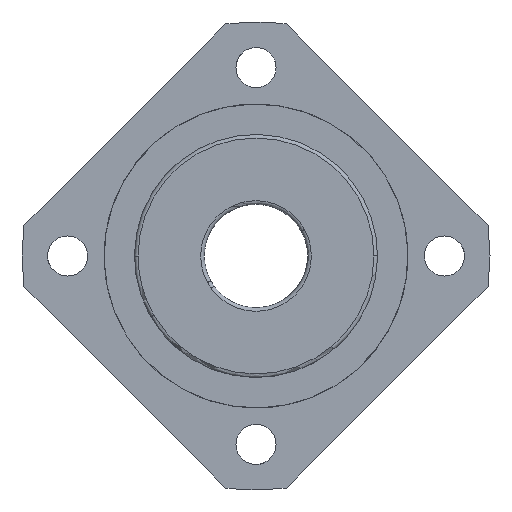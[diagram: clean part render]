
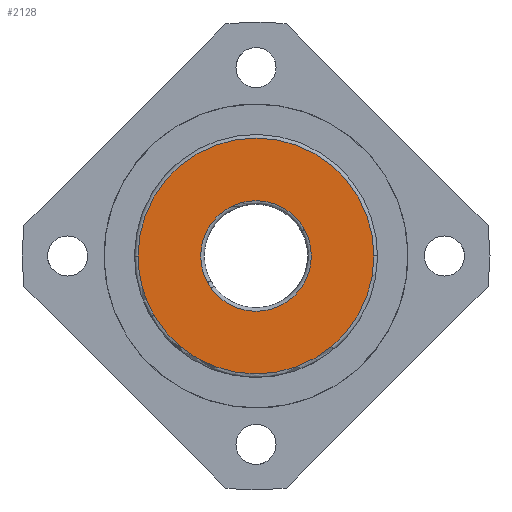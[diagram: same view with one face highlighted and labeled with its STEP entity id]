
A CAD part, left-side view. The second image highlights one B-rep face of the part: STEP entity #2128.
In plain terms, the highlighted planar face has unit normal (-1, 0, 0).
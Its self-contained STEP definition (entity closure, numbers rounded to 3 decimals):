
#1912=CARTESIAN_POINT('Vertex',(-6.,19.4,0.)) ;
#1915=CARTESIAN_POINT('Axis2P3D Location',(-6.,0.,0.)) ;
#1919=CARTESIAN_POINT('Vertex',(-6.,-19.4,0.)) ;
#2015=CARTESIAN_POINT('Vertex',(-6.,16.781,-9.734)) ;
#2018=CARTESIAN_POINT('Axis2P3D Location',(-6.,0.,0.)) ;
#2035=CARTESIAN_POINT('Axis2P3D Location',(-6.,0.,0.)) ;
#2047=CARTESIAN_POINT('Axis2P3D Location',(-6.,0.,0.)) ;
#2058=CARTESIAN_POINT('Control Point',(-6.,-7.986,4.363)) ;
#2059=CARTESIAN_POINT('Control Point',(-6.,-8.411,3.585)) ;
#2060=CARTESIAN_POINT('Control Point',(-6.,-8.741,2.755)) ;
#2061=CARTESIAN_POINT('Control Point',(-6.,-8.969,1.888)) ;
#2062=CARTESIAN_POINT('Control Point',(-6.,-9.207,0.118)) ;
#2063=CARTESIAN_POINT('Control Point',(-6.,-9.014,-1.658)) ;
#2064=CARTESIAN_POINT('Control Point',(-6.,-8.809,-2.53)) ;
#2065=CARTESIAN_POINT('Control Point',(-6.,-8.191,-4.206)) ;
#2066=CARTESIAN_POINT('Control Point',(-6.,-7.189,-5.685)) ;
#2067=CARTESIAN_POINT('Control Point',(-6.,-6.6,-6.36)) ;
#2068=CARTESIAN_POINT('Control Point',(-6.,-5.269,-7.552)) ;
#2069=CARTESIAN_POINT('Control Point',(-6.,-3.691,-8.389)) ;
#2070=CARTESIAN_POINT('Control Point',(-6.,-2.855,-8.709)) ;
#2071=CARTESIAN_POINT('Control Point',(-6.,-1.121,-9.14)) ;
#2072=CARTESIAN_POINT('Control Point',(-6.,0.666,-9.141)) ;
#2073=CARTESIAN_POINT('Control Point',(-6.,1.555,-9.032)) ;
#2074=CARTESIAN_POINT('Control Point',(-6.,3.288,-8.601)) ;
#2075=CARTESIAN_POINT('Control Point',(-6.,4.868,-7.766)) ;
#2076=CARTESIAN_POINT('Control Point',(-6.,5.603,-7.253)) ;
#2077=CARTESIAN_POINT('Control Point',(-6.,6.397,-6.541)) ;
#2078=CARTESIAN_POINT('Control Point',(-6.,7.075,-5.727)) ;
#2079=CARTESIAN_POINT('Control Point',(-6.,7.183,-5.592)) ;
#2080=CARTESIAN_POINT('Control Point',(-6.,7.287,-5.454)) ;
#2081=CARTESIAN_POINT('Control Point',(-6.,7.387,-5.314)) ;
#2082=CARTESIAN_POINT('Vertex',(-6.,-7.986,4.363)) ;
#2084=CARTESIAN_POINT('Vertex',(-6.,7.387,-5.314)) ;
#2088=CARTESIAN_POINT('Control Point',(-6.,7.387,-5.314)) ;
#2089=CARTESIAN_POINT('Control Point',(-6.,7.519,-5.131)) ;
#2090=CARTESIAN_POINT('Control Point',(-6.,7.644,-4.945)) ;
#2091=CARTESIAN_POINT('Control Point',(-6.,7.764,-4.754)) ;
#2092=CARTESIAN_POINT('Control Point',(-6.,7.878,-4.56)) ;
#2093=CARTESIAN_POINT('Control Point',(-6.,7.986,-4.363)) ;
#2094=CARTESIAN_POINT('Vertex',(-6.,7.986,-4.363)) ;
#2098=CARTESIAN_POINT('Control Point',(-6.,7.986,-4.363)) ;
#2099=CARTESIAN_POINT('Control Point',(-6.,8.411,-3.585)) ;
#2100=CARTESIAN_POINT('Control Point',(-6.,8.741,-2.755)) ;
#2101=CARTESIAN_POINT('Control Point',(-6.,8.969,-1.888)) ;
#2102=CARTESIAN_POINT('Control Point',(-6.,9.207,-0.118)) ;
#2103=CARTESIAN_POINT('Control Point',(-6.,9.014,1.658)) ;
#2104=CARTESIAN_POINT('Control Point',(-6.,8.809,2.53)) ;
#2105=CARTESIAN_POINT('Control Point',(-6.,8.191,4.206)) ;
#2106=CARTESIAN_POINT('Control Point',(-6.,7.189,5.685)) ;
#2107=CARTESIAN_POINT('Control Point',(-6.,6.6,6.36)) ;
#2108=CARTESIAN_POINT('Control Point',(-6.,5.269,7.552)) ;
#2109=CARTESIAN_POINT('Control Point',(-6.,3.691,8.389)) ;
#2110=CARTESIAN_POINT('Control Point',(-6.,2.855,8.709)) ;
#2111=CARTESIAN_POINT('Control Point',(-6.,1.121,9.14)) ;
#2112=CARTESIAN_POINT('Control Point',(-6.,-0.666,9.141)) ;
#2113=CARTESIAN_POINT('Control Point',(-6.,-1.555,9.032)) ;
#2114=CARTESIAN_POINT('Control Point',(-6.,-3.288,8.601)) ;
#2115=CARTESIAN_POINT('Control Point',(-6.,-4.868,7.766)) ;
#2116=CARTESIAN_POINT('Control Point',(-6.,-5.603,7.253)) ;
#2117=CARTESIAN_POINT('Control Point',(-6.,-6.565,6.39)) ;
#2118=CARTESIAN_POINT('Control Point',(-6.,-7.358,5.377)) ;
#2119=CARTESIAN_POINT('Control Point',(-6.,-7.586,5.05)) ;
#2120=CARTESIAN_POINT('Control Point',(-6.,-7.795,4.712)) ;
#2121=CARTESIAN_POINT('Control Point',(-6.,-7.986,4.363)) ;
#1916=DIRECTION('Axis2P3D Direction',(1.,-0.,0.)) ;
#2019=DIRECTION('Axis2P3D Direction',(1.,0.,0.)) ;
#2036=DIRECTION('Axis2P3D Direction',(1.,0.,0.)) ;
#2048=DIRECTION('Axis2P3D Direction',(1.,0.,0.)) ;
#2049=DIRECTION('Axis2P3D XDirection',(0.,1.,0.)) ;
#1917=AXIS2_PLACEMENT_3D('Circle Axis2P3D',#1915,#1916,$) ;
#2020=AXIS2_PLACEMENT_3D('Circle Axis2P3D',#2018,#2019,$) ;
#2037=AXIS2_PLACEMENT_3D('Circle Axis2P3D',#2035,#2036,$) ;
#2050=AXIS2_PLACEMENT_3D('Plane Axis2P3D',#2047,#2048,#2049) ;
#2053=ORIENTED_EDGE('',*,*,#2039,.F.) ;
#2054=ORIENTED_EDGE('',*,*,#2022,.F.) ;
#2055=ORIENTED_EDGE('',*,*,#1921,.F.) ;
#2124=ORIENTED_EDGE('',*,*,#2086,.T.) ;
#2125=ORIENTED_EDGE('',*,*,#2096,.T.) ;
#2126=ORIENTED_EDGE('',*,*,#2122,.T.) ;
#2127=FACE_BOUND('',#2123,.T.) ;
#2128=ADVANCED_FACE('6203',(#2056,#2127),#2051,.F.) ;
#2057=B_SPLINE_CURVE_WITH_KNOTS('',5,(#2058,#2059,#2060,#2061,#2062,#2063,#2064,#2065,#2066,#2067,#2068,#2069,#2070,#2071,#2072,#2073,#2074,#2075,#2076,#2077,#2078,#2079,#2080,#2081),.UNSPECIFIED.,.F.,.U.,(6,3,3,3,3,3,3,6),(0.,6.27,12.54,18.81,25.079,31.349,37.619,38.84),.UNSPECIFIED.) ;
#2087=B_SPLINE_CURVE_WITH_KNOTS('',5,(#2088,#2089,#2090,#2091,#2092,#2093),.UNSPECIFIED.,.F.,.U.,(6,6),(38.84,40.43),.UNSPECIFIED.) ;
#2097=B_SPLINE_CURVE_WITH_KNOTS('',5,(#2098,#2099,#2100,#2101,#2102,#2103,#2104,#2105,#2106,#2107,#2108,#2109,#2110,#2111,#2112,#2113,#2114,#2115,#2116,#2117,#2118,#2119,#2120,#2121),.UNSPECIFIED.,.F.,.U.,(6,3,3,3,3,3,3,6),(0.,6.27,12.54,18.81,25.079,31.349,37.619,40.43),.UNSPECIFIED.) ;
#1918=CIRCLE('generated circle',#1917,19.4) ;
#2021=CIRCLE('generated circle',#2020,19.4) ;
#2038=CIRCLE('generated circle',#2037,19.4) ;
#1921=EDGE_CURVE('',#1913,#1920,#1918,.T.) ;
#2022=EDGE_CURVE('',#1920,#2016,#2021,.T.) ;
#2039=EDGE_CURVE('',#2016,#1913,#2038,.T.) ;
#2086=EDGE_CURVE('',#2083,#2085,#2057,.T.) ;
#2096=EDGE_CURVE('',#2085,#2095,#2087,.T.) ;
#2122=EDGE_CURVE('',#2095,#2083,#2097,.T.) ;
#2052=EDGE_LOOP('',(#2053,#2054,#2055)) ;
#2123=EDGE_LOOP('',(#2124,#2125,#2126)) ;
#2056=FACE_OUTER_BOUND('',#2052,.T.) ;
#2051=PLANE('Plane',#2050) ;
#1913=VERTEX_POINT('',#1912) ;
#1920=VERTEX_POINT('',#1919) ;
#2016=VERTEX_POINT('',#2015) ;
#2083=VERTEX_POINT('',#2082) ;
#2085=VERTEX_POINT('',#2084) ;
#2095=VERTEX_POINT('',#2094) ;
